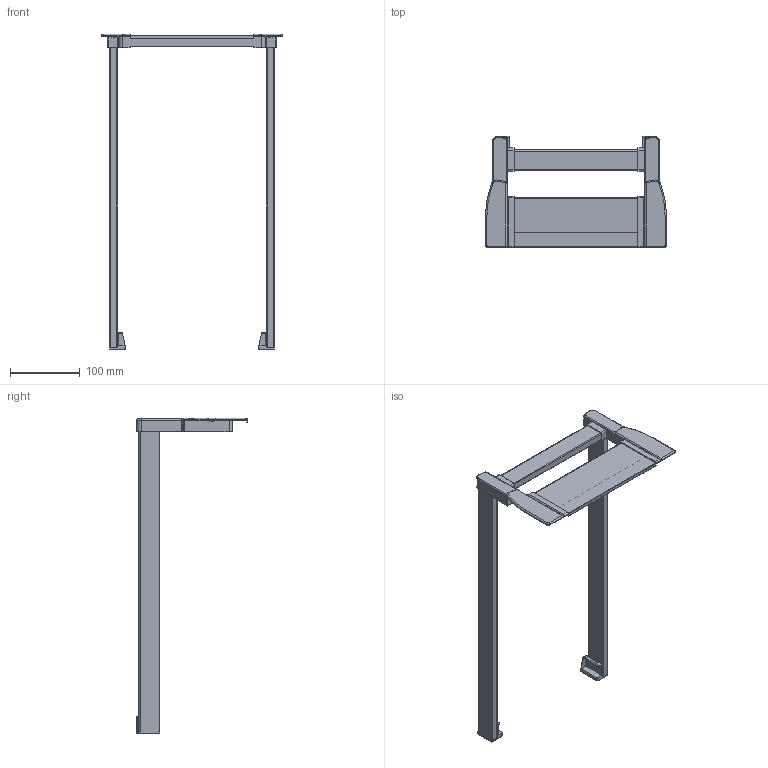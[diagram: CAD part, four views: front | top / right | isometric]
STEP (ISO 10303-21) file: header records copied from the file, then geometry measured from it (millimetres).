
FILE_DESCRIPTION (( 'STEP AP214' ), '1' );
FILE_NAME ('1_P620_NL 450_KAB 300_16er KS_.step', '2009-09-16T06:29:46', ( 'Waldinger Reinhard' ), ( 'Grass GmbH' ), 'SwSTEP 2.0', 'SolidWorks 2009', '' );
FILE_SCHEMA (( 'AUTOMOTIVE_DESIGN' ));
Length unit declared in the file: millimetre
Products named in the file (1): 1_P620_NL 450_KAB 300_16er KS_
Bounding box: 259.6 x 160.5 x 452.8 mm (x, y, z)
Volume: 607235 mm3; surface area: 149218.2 mm2
Topology: 1 solids, 1 shells, 218 faces, 576 edges, 364 vertices
Faces by surface type: plane 97, cylinder 89, torus 28, sphere 2, bspline 2
Entity records: 6974 total; most frequent: CARTESIAN_POINT 1341, DIRECTION 1192, ORIENTED_EDGE 1148, EDGE_CURVE 574, AXIS2_PLACEMENT_3D 431, VERTEX_POINT 364, VECTOR 330, LINE 330
